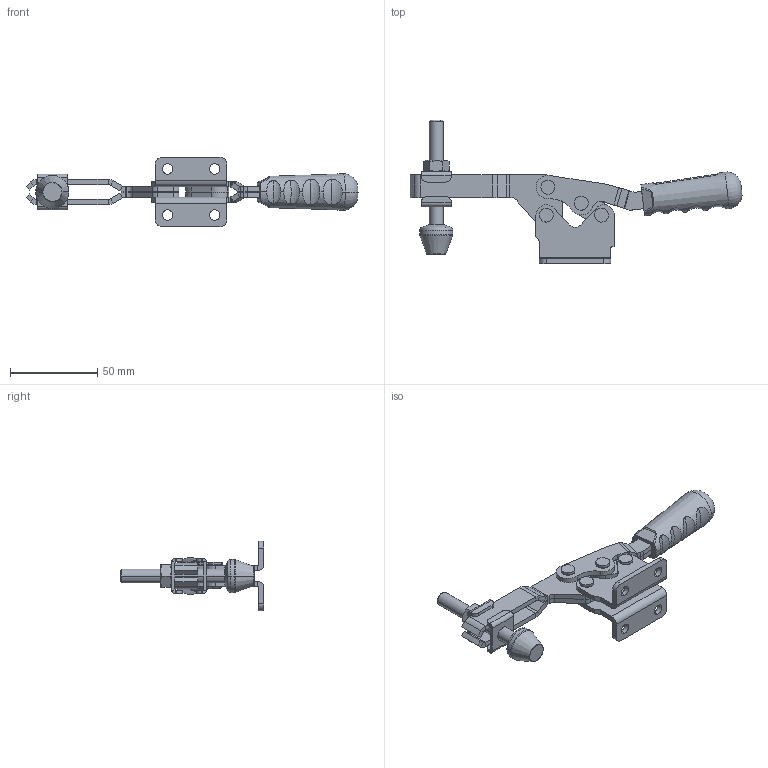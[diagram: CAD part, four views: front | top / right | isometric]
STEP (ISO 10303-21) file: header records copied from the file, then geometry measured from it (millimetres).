
FILE_DESCRIPTION (( 'STEP AP203' ), '1' );
FILE_NAME ('1203_Y.STEP', '2022-11-25T06:15:54', ( '' ), ( '' ), 'SwSTEP 2.0', 'SolidWorks 2023', '' );
FILE_SCHEMA (( 'CONFIG_CONTROL_DESIGN' ));
Length unit declared in the file: millimetre
Products named in the file (14): 1203_Y; 1215_Baskı Kolu_Varsayılan; M8 Baskı Grubu_Varsayılan; Pim_5x16_Varsayılan; Mirror1215_Baskı Kolu_Varsayılan; Koza_13x13_Varsayılan; Burc_8x5x6_Varsayılan; M8 Baskı_Varsayılan; 1215_UA_Gövde_Varsayılan; Aynalama1215_C60Tutamaklı_Hareket Kolu_Varsayılan; M8 Somun_Varsayılan; C55_T(YENİ_TUTAMAK)_Varsayılan; 1215_C60Tutamaklı_Hareket Kolu_Varsayılan; M8 Askı_Varsayılan
Assembly tree (19 placements, depth 3):
  1203_Y
    1215_UA_Gövde_Varsayılan
    1215_C60Tutamaklı_Hareket Kolu_Varsayılan
    Koza_13x13_Varsayılan  x2
    1215_Baskı Kolu_Varsayılan
    Burc_8x5x6_Varsayılan  x2
    Pim_5x16_Varsayılan  x4
    Aynalama1215_C60Tutamaklı_Hareket Kolu_Varsayılan
    M8 Baskı Grubu_Varsayılan
      M8 Askı_Varsayılan  x2
      M8 Somun_Varsayılan
      M8 Baskı_Varsayılan
    Mirror1215_Baskı Kolu_Varsayılan
    C55_T(YENİ_TUTAMAK)_Varsayılan
Bounding box: 190.54 x 82.6 x 40 mm (x, y, z)
Volume: 51139.1 mm3; surface area: 37533.5 mm2
Topology: 19 solids, 19 shells, 940 faces, 2342 edges, 1484 vertices
Faces by surface type: plane 575, cylinder 226, bspline 73, torus 34, cone 32
Entity records: 26029 total; most frequent: CARTESIAN_POINT 8858, ORIENTED_EDGE 3310, DIRECTION 3039, EDGE_CURVE 1655, VERTEX_POINT 1050, VECTOR 1049, LINE 1049, AXIS2_PLACEMENT_3D 995
